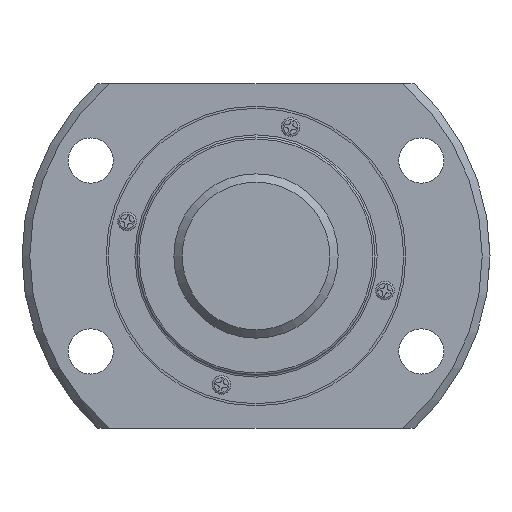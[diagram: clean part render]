
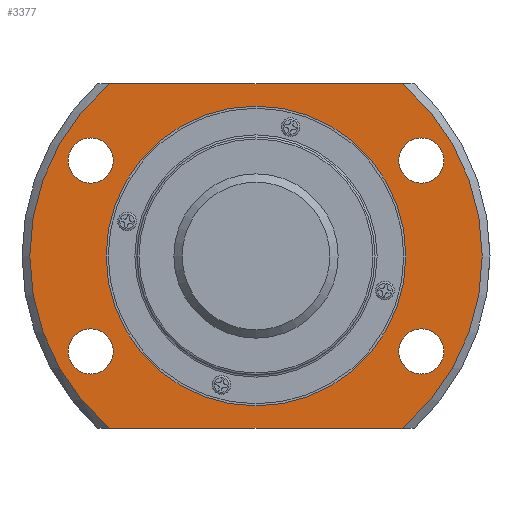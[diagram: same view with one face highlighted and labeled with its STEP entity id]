
A CAD part, left-side view. The second image highlights one B-rep face of the part: STEP entity #3377.
In plain terms, the highlighted planar face has unit normal (-1, 0, 0).
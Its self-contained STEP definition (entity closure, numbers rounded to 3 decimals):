
#37=LINE('',#5080,#365);
#38=LINE('',#5081,#366);
#365=VECTOR('',#4023,1000.);
#366=VECTOR('',#4024,1000.);
#721=PLANE('',#3628);
#887=ORIENTED_EDGE('',*,*,#1823,.T.);
#888=ORIENTED_EDGE('',*,*,#1824,.T.);
#889=ORIENTED_EDGE('',*,*,#1825,.T.);
#890=ORIENTED_EDGE('',*,*,#1826,.T.);
#891=ORIENTED_EDGE('',*,*,#1827,.T.);
#892=ORIENTED_EDGE('',*,*,#1818,.F.);
#893=ORIENTED_EDGE('',*,*,#1828,.T.);
#894=ORIENTED_EDGE('',*,*,#1821,.F.);
#895=ORIENTED_EDGE('',*,*,#1829,.T.);
#1818=EDGE_CURVE('',#2286,#2287,#2617,.T.);
#1821=EDGE_CURVE('',#2288,#2289,#2618,.T.);
#1823=EDGE_CURVE('',#2290,#2290,#2619,.T.);
#1824=EDGE_CURVE('',#2291,#2291,#2620,.T.);
#1825=EDGE_CURVE('',#2292,#2292,#2621,.T.);
#1826=EDGE_CURVE('',#2293,#2293,#2622,.T.);
#1827=EDGE_CURVE('',#2294,#2294,#2623,.T.);
#1828=EDGE_CURVE('',#2286,#2289,#37,.T.);
#1829=EDGE_CURVE('',#2288,#2287,#38,.T.);
#2286=VERTEX_POINT('',#5050);
#2287=VERTEX_POINT('',#5052);
#2288=VERTEX_POINT('',#5062);
#2289=VERTEX_POINT('',#5064);
#2290=VERTEX_POINT('',#5071);
#2291=VERTEX_POINT('',#5073);
#2292=VERTEX_POINT('',#5075);
#2293=VERTEX_POINT('',#5077);
#2294=VERTEX_POINT('',#5079);
#2617=CIRCLE('',#3625,55.1);
#2618=CIRCLE('',#3627,55.1);
#2619=CIRCLE('',#3629,36.5);
#2620=CIRCLE('',#3630,5.5);
#2621=CIRCLE('',#3631,5.5);
#2622=CIRCLE('',#3632,5.5);
#2623=CIRCLE('',#3633,5.5);
#2759=EDGE_LOOP('',(#887));
#2760=EDGE_LOOP('',(#888));
#2761=EDGE_LOOP('',(#889));
#2762=EDGE_LOOP('',(#890));
#2763=EDGE_LOOP('',(#891));
#2764=EDGE_LOOP('',(#892,#893,#894,#895));
#3043=FACE_BOUND('',#2759,.T.);
#3044=FACE_BOUND('',#2760,.T.);
#3045=FACE_BOUND('',#2761,.T.);
#3046=FACE_BOUND('',#2762,.T.);
#3047=FACE_BOUND('',#2763,.T.);
#3048=FACE_BOUND('',#2764,.T.);
#3377=ADVANCED_FACE('',(#3043,#3044,#3045,#3046,#3047,#3048),#721,.T.);
#3625=AXIS2_PLACEMENT_3D('',#5051,#4005,#4006);
#3627=AXIS2_PLACEMENT_3D('',#5063,#4009,#4010);
#3628=AXIS2_PLACEMENT_3D('',#5069,#4011,#4012);
#3629=AXIS2_PLACEMENT_3D('',#5070,#4013,#4014);
#3630=AXIS2_PLACEMENT_3D('',#5072,#4015,#4016);
#3631=AXIS2_PLACEMENT_3D('',#5074,#4017,#4018);
#3632=AXIS2_PLACEMENT_3D('',#5076,#4019,#4020);
#3633=AXIS2_PLACEMENT_3D('',#5078,#4021,#4022);
#4005=DIRECTION('',(1.,0.,0.));
#4006=DIRECTION('',(0.,0.,-1.));
#4009=DIRECTION('',(1.,0.,0.));
#4010=DIRECTION('',(0.,0.,-1.));
#4011=DIRECTION('',(-1.,0.,0.));
#4012=DIRECTION('',(0.,0.,1.));
#4013=DIRECTION('',(1.,0.,0.));
#4014=DIRECTION('',(0.,0.,-1.));
#4015=DIRECTION('',(1.,0.,0.));
#4016=DIRECTION('',(0.,0.,-1.));
#4017=DIRECTION('',(1.,0.,0.));
#4018=DIRECTION('',(0.,0.,-1.));
#4019=DIRECTION('',(1.,0.,0.));
#4020=DIRECTION('',(0.,0.,-1.));
#4021=DIRECTION('',(1.,0.,0.));
#4022=DIRECTION('',(0.,0.,-1.));
#4023=DIRECTION('',(0.,1.,0.));
#4024=DIRECTION('',(0.,-1.,0.));
#5050=CARTESIAN_POINT('',(11.5,-35.665,42.));
#5051=CARTESIAN_POINT('',(11.5,0.,0.));
#5052=CARTESIAN_POINT('',(11.5,-35.665,-42.));
#5062=CARTESIAN_POINT('',(11.5,35.665,-42.));
#5063=CARTESIAN_POINT('',(11.5,0.,0.));
#5064=CARTESIAN_POINT('',(11.5,35.665,42.));
#5069=CARTESIAN_POINT('',(11.5,55.1,0.));
#5070=CARTESIAN_POINT('',(11.5,0.,0.));
#5071=CARTESIAN_POINT('',(11.5,0.,-36.5));
#5072=CARTESIAN_POINT('',(11.5,-40.27,23.25));
#5073=CARTESIAN_POINT('',(11.5,-40.27,17.75));
#5074=CARTESIAN_POINT('',(11.5,40.27,-23.25));
#5075=CARTESIAN_POINT('',(11.5,40.27,-28.75));
#5076=CARTESIAN_POINT('',(11.5,-40.27,-23.25));
#5077=CARTESIAN_POINT('',(11.5,-40.27,-28.75));
#5078=CARTESIAN_POINT('',(11.5,40.27,23.25));
#5079=CARTESIAN_POINT('',(11.5,40.27,17.75));
#5080=CARTESIAN_POINT('',(11.5,55.1,42.));
#5081=CARTESIAN_POINT('',(11.5,55.1,-42.));
